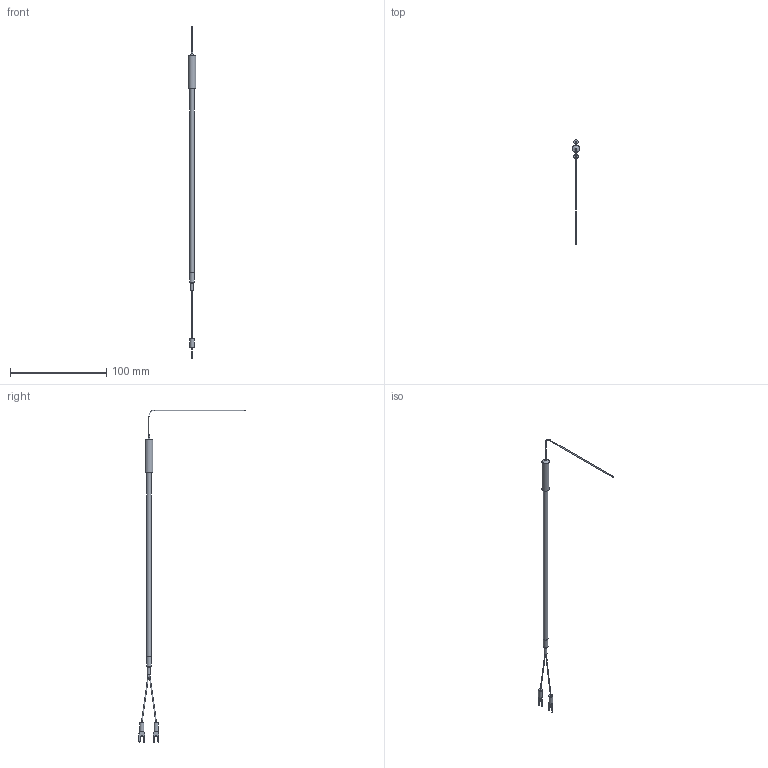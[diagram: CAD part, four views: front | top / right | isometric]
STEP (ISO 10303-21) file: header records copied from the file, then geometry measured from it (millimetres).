
FILE_DESCRIPTION (( 'STEP AP203' ), '1' );
FILE_NAME ('YIT111S-3(0).STEP', '2024-05-29T07:50:07', ( '' ), ( '' ), 'SwSTEP 2.0', 'SolidWorks 2021', '' );
FILE_SCHEMA (( 'CONFIG_CONTROL_DESIGN' ));
Length unit declared in the file: millimetre
Products named in the file (1): YIT111S-3(0)
Bounding box: 8 x 110.43 x 345.49 mm (x, y, z)
Volume: 6000.8 mm3; surface area: 5282.4 mm2
Topology: 1 solids, 1 shells, 70 faces, 166 edges, 107 vertices
Faces by surface type: plane 35, cylinder 22, bspline 8, torus 3, cone 2
Full cylindrical faces by diameter (mm): 1 x2, 3.16 x1, 4.5 x2, 4.8 x1, 5 x1, 8 x1
Entity records: 2152 total; most frequent: CARTESIAN_POINT 538, DIRECTION 312, ORIENTED_EDGE 296, EDGE_CURVE 148, AXIS2_PLACEMENT_3D 113, VERTEX_POINT 104, EDGE_LOOP 94, LINE 86
